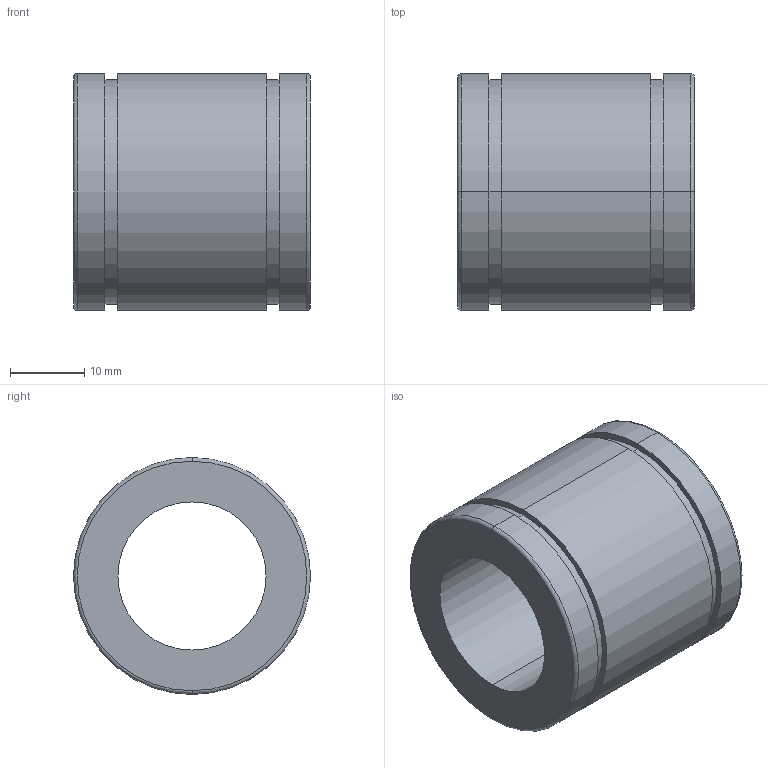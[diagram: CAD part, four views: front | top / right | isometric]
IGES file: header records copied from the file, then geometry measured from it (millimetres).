
Start section: 3D InterOp IGES (Version 21 0 1), Spatial Corp. Copyright (c) 1999-2007.
Global section: file name: N-20VS.igs; native system: Spatial Corp.; preprocessor: 3D InterOp GENERIC/IGES 3.0; author: Noname; organization: Noname; date: 20220311.154239; units: millimetre
Bounding box: 32 x 32 x 32 mm (x, y, z)
Surface area: 6479.5 mm2 (no closed solid volume)
Topology: 0 solids, 0 shells, 22 faces, 88 edges, 88 vertices
Faces by surface type: revolution 16, extrusion 6
